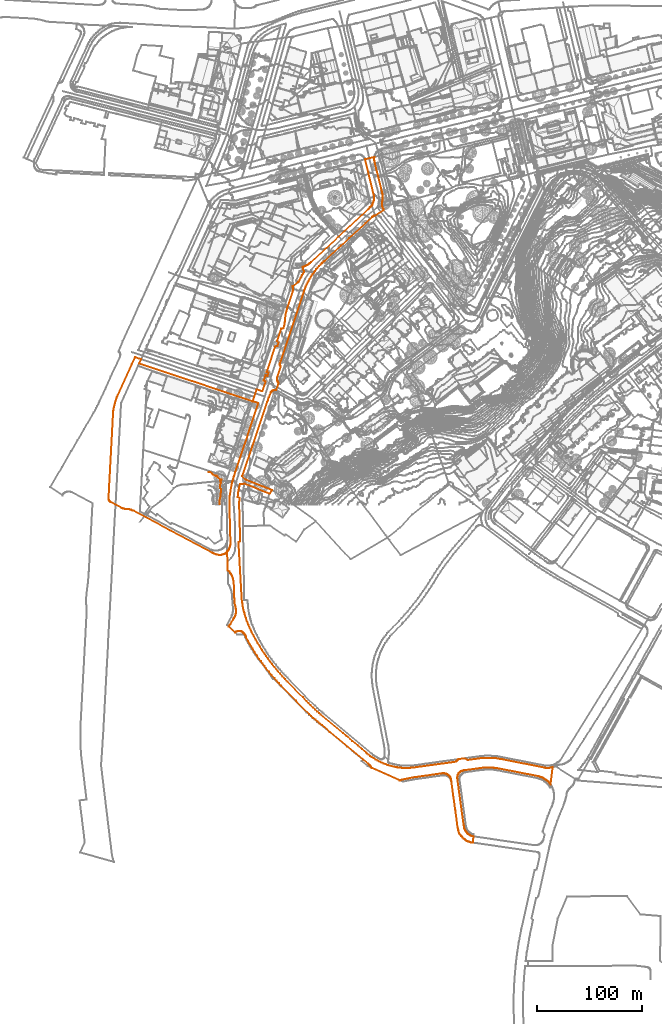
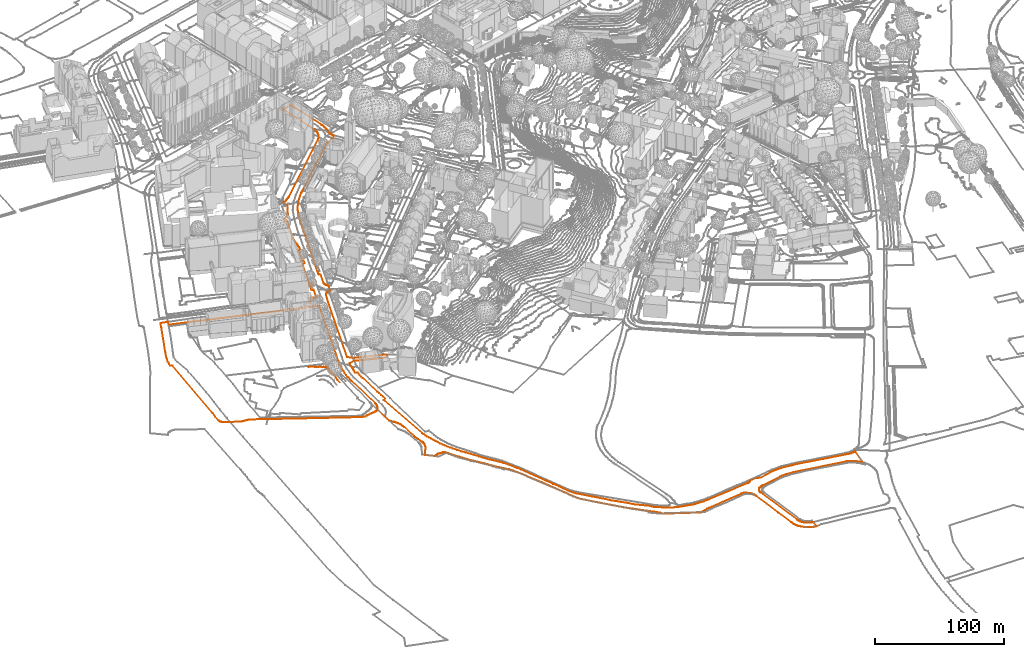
# Not in any storey, part 100 of 477: 2 civil elements, 1 geographic element.
"""IFC4 model written with IfcOpenShell, lengths in metres."""

from ifc_helpers import new_model, entity, si_unit, frame, origin_with_axes, place, context, subcontext, project, spatial, element, save


model = new_model("IFC4")

# Units and contexts
model_context = context("Model", 3, precision=1e-05, world=origin_with_axes())
body_context = subcontext(model_context, "Body", "Model", "MODEL_VIEW")
ifc_project = project(units=[si_unit("AREAUNIT", "SQUARE_METRE"), si_unit("LENGTHUNIT", "METRE")], contexts=[model_context])

# Sites
site_1_placement = place(None, origin_with_axes())
site_1 = spatial("IfcSite", under=ifc_project, at=site_1_placement, Name="Topoexport Site")
site_2_placement = place(site_1_placement, origin_with_axes())
site_2 = spatial("IfcSite", under=site_1, at=site_2_placement, Name="TPX_ROADS_OUTLINES")

# Civil elements
civil_element_1_placement = place(site_2_placement, frame((-95.8792679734, 3.9717160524, 525.6825592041), z_axis=(0.0, 0.0, 1.0), x_axis=(1.0, 0.0, 0.0)))
element("IfcCivilElement", 1, at=civil_element_1_placement, inside=site_2, Name="Roads Outline 29", ObjectType="ROAD", context=body_context, shape_type="GeometricCurveSet", body=[
    entity("IfcGeometricCurveSet", [entity("IfcIndexedPolyCurve", entity("IfcCartesianPointList3D", [[0.0, 0.0, 0.0], [0.2090000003, 6.5220000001, 0.1259674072], [0.4309999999, 10.8390000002, 0.8052130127], [4.1469999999, 79.716, 2.5408952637], [4.2660000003, 81.645, 1.1758549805], [4.4580000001, 83.568, 0.352380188], [4.7230000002, 85.4820000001, 0.3002050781], [5.0600000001, 87.385, 0.2311894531], [5.4700000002, 89.274, 0.3029388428], [5.9360000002, 91.084, 0.7047973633], [6.4670000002, 92.8759999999, 1.1196856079], [7.0649999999, 94.6459999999, 1.5115184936], [7.727, 96.3940000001, 1.8967419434], [8.4530000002, 98.1160000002, 2.2713045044], [21.8790000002, 127.578, 3.0430595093], [25.125, 134.679, 2.2582330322], [30.855, 132.774, 2.4664932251], [28.9709999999, 128.6310000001, 2.9211392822], [137.0559999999, 92.7320000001, 3.9211055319], [142.355, 90.9720000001, 3.7318244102], [141.6189999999, 88.7720000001, 3.6959359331], [121.25, 27.679, 2.6218205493], [120.4100000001, 25.325, 2.5217339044], [119.6260000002, 22.952, 2.4582699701], [118.8969999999, 20.561, 2.3808017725], [118.2239999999, 18.1529999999, 2.2891087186], [117.608, 15.7310000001, 2.2245042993], [117.0490000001, 13.2950000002, 2.1167274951], [116.5, 10.6000000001, 2.0274228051], [116.0210000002, 7.892, 1.9163168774], [115.6120000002, 5.172, 1.8078262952], [115.273, 2.443, 1.7109503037], [115.0049999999, -0.294, 1.6093416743], [115.0249999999, -1.713, 1.533269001], [115.0330000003, -3.132, 1.4580318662], [115.0240000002, -4.852, 1.4025044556], [114.9939999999, -6.5719999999, 1.404428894], [115.9610000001, -41.355, 1.4358656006], [115.923, -42.3529999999, 1.4343742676], [115.8170000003, -43.3459999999, 1.4302142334], [115.6430000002, -44.3289999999, 1.4233854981], [115.4020000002, -45.2989999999, 1.4139273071], [115.0950000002, -46.2490000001, 1.4018789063], [114.7239999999, -47.176, 1.4217488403], [114.4450000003, -47.8869999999, 1.4396461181], [114.1090000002, -48.5729999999, 1.4611998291], [113.7179999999, -49.23, 1.4776121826], [113.2760000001, -49.8529999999, 1.4946619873], [112.784, -50.4379999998, 1.5309696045], [112.199, -51.0249999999, 1.5906693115], [111.5649999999, -51.558, 1.7598414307], [110.8870000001, -52.0330000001, 1.9723870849], [110.1690000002, -52.446, 2.1955350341], [109.4169999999, -52.7949999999, 2.4012420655], [108.6380000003, -53.0759999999, 2.5063232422], [107.8370000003, -53.2879999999, 2.5205206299], [107.0210000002, -53.4269999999, 2.5245672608], [106.1950000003, -53.4949999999, 2.4721356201], [105.0300000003, -53.385, 2.3143251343], [103.875, -53.2049999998, 1.9795073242], [102.7320000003, -52.9539999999, 1.5134887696], [101.608, -52.6329999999, 1.1125405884], [100.5040000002, -52.2439999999, 0.7050781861], [99.4270000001, -51.7879999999, 0.413838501], [98.3799999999, -51.267, 0.2103104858], [59.1550000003, -30.368, 0.0179412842], [23.5959999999, -11.4139999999, 0.0179412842], [22.841, -11.0079999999, 0.0179412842], [22.0580000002, -10.6580000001, 0.0179412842], [21.2519999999, -10.3669999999, 0.0179412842], [20.426, -10.1359999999, 0.0179412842], [19.5860000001, -9.9669999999, 0.0179412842], [18.7349999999, -9.8589999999, 0.0179412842], [17.8790000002, -9.8149999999, 0.0179412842], [17.0830000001, -9.825, 0.0179412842], [16.2880000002, -9.7759999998, 0.0179412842], [15.4990000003, -9.6669999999, 0.0179412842], [14.7200000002, -9.4990000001, 0.0179412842], [13.9569999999, -9.273, 0.0179412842], [13.2120000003, -8.99, 0.0179412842], [12.4909999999, -8.652, 0.0179412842], [6.611, -5.534, 0.0179412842], [2.0060000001, -3.0919999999, 0.04662323], [1.5830000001, -2.855, 0.0368591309], [1.1970000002, -2.5619999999, 0.0247879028], [0.855, -2.2179999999, 0.0142781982], [0.5640000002, -1.831, 0.0154119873], [0.3289999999, -1.4069999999, 0.0166541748], [0.1540000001, -0.9549999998, 0.0107770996], [0.0440000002, -0.483, 0.0023361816], [0.0, 0.0, 0.0]]))]),
])
civil_element_2_placement = place(site_2_placement, frame((16.9047320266, -46.4662839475, 527.2135288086), z_axis=(0.0, 0.0, 1.0), x_axis=(1.0, 0.0, 0.0)))
element("IfcCivilElement", 2, at=civil_element_2_placement, inside=site_2, Name="Roads Outline 37", ObjectType="ROAD", context=body_context, shape_type="GeometricCurveSet", body=[
    entity("IfcGeometricCurveSet", [entity("IfcIndexedPolyCurve", entity("IfcCartesianPointList3D", [[0.0, 0.0, 0.0], [0.4920000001, 0.585, -0.0363076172], [0.9339999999, 1.2079999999, -0.0533574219], [1.3250000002, 1.865, -0.0697697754], [1.6610000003, 2.551, -0.0913234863], [1.9399999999, 3.2619999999, -0.1092207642], [2.3110000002, 4.1889999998, -0.1290906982], [2.6180000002, 5.139, -0.1170422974], [2.8590000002, 6.1089999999, -0.1075841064], [3.0330000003, 7.0919999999, -0.1007553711], [3.139, 8.085, -0.0965953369], [3.1770000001, 9.0829999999, -0.0951040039], [2.21, 43.8659999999, -0.1265407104], [2.2400000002, 45.5859999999, -0.1284651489], [2.2490000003, 47.3059999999, -0.0729377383], [2.2409999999, 48.7249999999, 0.0022993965], [2.2209999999, 50.1439999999, 0.0783720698], [2.4890000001, 52.8809999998, 0.1799806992], [2.8280000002, 55.6099999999, 0.2768566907], [3.2370000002, 58.3299999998, 0.3853472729], [3.716, 61.0379999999, 0.4964532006], [4.2650000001, 63.733, 0.5857578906], [4.824, 66.169, 0.6935346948], [5.4399999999, 68.5909999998, 0.7581391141], [6.1129999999, 70.9989999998, 0.849832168], [6.8420000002, 73.3899999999, 0.9273003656], [7.6260000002, 75.7629999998, 0.9907642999], [8.466, 78.1169999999, 1.0908509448], [28.835, 139.21, 2.1649663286], [29.571, 141.4099999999, 2.2008548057], [24.2719999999, 143.1699999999, 2.3901359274], [25.6890000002, 147.433, 2.4215292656], [28.0300000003, 154.477, 2.3927372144], [33.3530000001, 152.706, 2.4438187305], [36.5180000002, 162.1809999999, 2.6498570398], [34.7850000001, 162.7799999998, 2.6498814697], [36.5249999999, 168.007, 2.8102073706], [38.273, 167.4069999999, 2.7362770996], [39.3489999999, 170.3559999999, 2.8155852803], [37.6490000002, 171.2289999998, 2.7635325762], [45.8100000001, 195.4849999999, 3.4531757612], [47.7590000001, 195.7209999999, 3.4420223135], [48.8760000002, 199.0129999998, 3.5570848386], [47.4820000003, 200.4349999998, 3.4821393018], [51.4849999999, 212.3659999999, 3.8975067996], [53.477, 212.659, 3.9874900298], [54.0789999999, 214.713, 4.0521432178], [54.4180000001, 216.2209999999, 4.0875357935], [54.7050000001, 217.74, 4.1328164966], [54.9410000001, 219.267, 4.1851871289], [55.1310000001, 220.858, 4.2515688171], [55.264, 222.4549999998, 4.2883966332], [55.4300000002, 224.156, 4.3429505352], [55.6630000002, 225.8489999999, 4.4029189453], [55.9640000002, 227.531, 4.4628600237], [56.3459999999, 229.2609999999, 4.5051857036], [56.8000000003, 230.9739999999, 4.5690944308], [57.324, 232.6669999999, 4.7371709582], [62.344, 247.608, 5.6097928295], [62.5410000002, 248.3459999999, 5.6424190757], [62.6669999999, 249.0999999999, 5.6582427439], [62.7230000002, 249.862, 5.693642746], [62.7060000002, 250.6259999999, 5.7365152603], [62.6180000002, 251.385, 5.765941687], [62.4730000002, 252.0699999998, 5.769965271], [62.2690000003, 252.74, 5.76331303], [67.588, 256.4849999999, 6.166368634], [67.818, 256.6139999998, 6.1831970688], [68.0120000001, 256.7919999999, 6.2012509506], [68.1610000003, 257.0089999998, 6.2194770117], [68.9420000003, 258.7339999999, 6.3059574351], [69.7749999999, 260.4339999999, 6.3921290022], [70.6580000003, 262.1089999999, 6.4865210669], [71.4110000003, 263.4479999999, 6.5424905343], [72.1950000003, 264.7679999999, 6.6325996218], [73.0120000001, 266.068, 6.6996910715], [73.0989999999, 266.281, 6.7107645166], [73.1320000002, 266.5079999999, 6.7232725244], [73.1099999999, 266.7359999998, 6.7362372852], [73.0350000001, 266.953, 6.7503700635], [71.7970000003, 270.852, 6.8198967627], [72.9190000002, 271.2439999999, 6.8697641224], [74.0150000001, 271.7019999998, 6.8797335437], [75.0819999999, 272.2239999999, 6.9004628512], [76.1159999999, 272.8089999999, 6.9428690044], [77.1140000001, 273.4549999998, 6.9862838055], [78.071, 274.159, 7.0066928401], [78.9840000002, 274.919, 7.0331902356], [79.8510000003, 275.7319999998, 7.095719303], [134.5440000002, 326.3219999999, 10.0701041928], [135.6810000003, 327.4009999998, 10.1570261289], [136.2379999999, 327.9479999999, 10.1976430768], [136.7609999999, 328.527, 10.2428851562], [137.2490000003, 329.1379999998, 10.2818008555], [137.6980000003, 329.7759999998, 10.3077763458], [138.1699999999, 330.5489999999, 10.3543295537], [138.5860000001, 331.3529999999, 10.3972604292], [138.9450000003, 332.1849999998, 10.4597606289], [139.2450000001, 333.0399999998, 10.4924332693], [139.4849999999, 333.9129999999, 10.515973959], [139.659, 334.7849999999, 10.5567918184], [139.773, 335.6669999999, 10.6126278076], [139.8259999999, 336.5549999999, 10.6582545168], [139.818, 337.4439999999, 10.6884593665], [139.7490000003, 338.331, 10.7128418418], [139.6189999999, 339.21, 10.7421089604], [139.429, 340.0789999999, 10.7347743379], [131.2390000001, 373.524, 12.2542059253], [140.1520000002, 375.723, 12.5422128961], [140.037, 374.963, 12.5395443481], [139.9790000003, 374.196, 12.5273398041], [139.977, 373.4269999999, 12.4937084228], [140.0320000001, 372.6599999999, 12.4847212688], [140.1440000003, 371.899, 12.4871014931], [140.3110000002, 371.149, 12.452683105], [140.6830000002, 369.6329999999, 12.398720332], [147.2970000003, 342.6749999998, 11.192696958], [147.5389999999, 341.5469999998, 11.1247001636], [147.7260000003, 340.409, 11.1187284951], [147.8570000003, 339.2629999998, 11.0906309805], [147.932, 338.112, 11.0058054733], [147.9500000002, 336.8879999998, 10.9614676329], [147.9029999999, 335.6639999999, 10.9473659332], [147.7930000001, 334.4439999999, 10.906844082], [147.6189999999, 333.2319999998, 10.8399327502], [147.5530000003, 332.8829999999, 10.8423970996], [147.4990000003, 332.531, 10.8514512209], [147.4569999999, 332.1849999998, 10.8603287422], [147.426, 331.838, 10.8469992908], [147.3999999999, 331.1339999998, 10.8128685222], [147.4210000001, 330.4299999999, 10.7581859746], [147.4890000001, 329.7289999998, 10.7244940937], [147.6040000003, 329.034, 10.6952062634], [147.7889999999, 328.2619999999, 10.5807096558], [148.031, 327.5059999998, 10.5263208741], [148.3310000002, 326.7699999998, 10.4976947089], [148.6839999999, 326.0589999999, 10.4820318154], [149.091, 325.3769999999, 10.4792563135], [140.943, 320.061, 10.075383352], [140.3620000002, 319.936, 10.0530254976], [139.798, 319.75, 10.0329330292], [139.2570000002, 319.5049999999, 10.0080044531], [138.7450000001, 319.2049999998, 9.9715173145], [138.2680000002, 318.852, 9.9454167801], [137.8300000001, 318.45, 9.9406581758], [131.5320000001, 312.652, 9.6296100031], [116.1690000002, 298.5059999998, 8.7322271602], [108.429, 291.379, 8.2692342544], [92.5290000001, 276.7389999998, 7.443746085], [91.773, 276.0469999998, 7.4343657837], [91.02, 275.3499999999, 7.3811415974], [90.5279999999, 274.8999999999, 7.3639008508], [90.0470000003, 274.4369999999, 7.3345881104], [88.682, 273.0939999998, 7.2588066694], [87.358, 271.7119999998, 7.1936700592], [86.074, 270.291, 7.1023208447], [84.8330000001, 268.8339999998, 7.0216320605], [83.6440000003, 267.3499999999, 6.9373924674], [82.4980000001, 265.8329999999, 6.861977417], [81.395, 264.284, 6.7685030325], [80.3370000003, 262.7039999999, 6.6905249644], [79.3110000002, 261.0719999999, 6.5860730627], [78.3319999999, 259.4109999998, 6.4932963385], [77.4010000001, 257.723, 6.3809808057], [76.5190000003, 256.0089999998, 6.2853139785], [75.6499999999, 254.1849999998, 6.1771158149], [74.8360000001, 252.3359999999, 6.0549408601], [74.0800000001, 250.463, 5.9451830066], [73.3810000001, 248.5669999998, 5.8679813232], [72.7400000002, 246.6509999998, 5.7636781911], [71.7960000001, 243.8229999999, 5.5745427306], [50.986, 181.477, 3.2977000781], [50.2790000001, 179.358, 3.2287040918], [50.1669999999, 178.9819999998, 3.1982824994], [50.1150000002, 178.5929999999, 3.1809031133], [50.1230000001, 178.2009999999, 3.1650239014], [50.1910000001, 177.8149999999, 3.1430599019], [50.3250000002, 177.4269999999, 3.1194228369], [50.52, 177.0659999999, 3.1071771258], [50.7710000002, 176.74, 3.1141446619], [51.071, 176.46, 3.1251921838], [47.4960000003, 165.7729999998, 3.0790672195], [47.3760000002, 165.1889999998, 3.08814122], [47.3230000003, 164.5959999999, 3.0748394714], [47.338, 164.0, 3.0641486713], [47.4210000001, 163.4099999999, 3.0646839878], [47.571, 162.8329999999, 3.0730380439], [47.7850000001, 162.277, 3.0850431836], [48.017, 161.825, 3.094668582], [48.2919999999, 161.3969999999, 3.1061391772], [48.6070000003, 160.9979999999, 3.1198404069], [48.9590000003, 160.6309999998, 3.1398018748], [46.5789999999, 153.7489999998, 2.8328276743], [46.1140000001, 153.8589999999, 2.8312494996], [45.639, 153.916, 2.8224087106], [45.1610000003, 153.9199999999, 2.8123015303], [44.6850000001, 153.872, 2.7975457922], [44.2179999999, 153.7699999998, 2.7848241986], [43.665, 153.5759999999, 2.7706894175], [43.1430000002, 153.308, 2.7551187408], [42.6630000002, 152.9719999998, 2.7406853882], [42.233, 152.5739999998, 2.7303322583], [41.861, 152.1209999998, 2.7047519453], [41.5530000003, 151.6209999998, 2.6865820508], [41.3170000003, 151.085, 2.6893547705], [40.3799999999, 148.8199999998, 2.6460552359], [39.4939999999, 146.5349999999, 2.5817779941], [38.7150000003, 144.3949999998, 2.5524305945], [37.9780000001, 142.24, 2.5019457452], [14.4270000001, 72.075, 1.3037492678], [17.611, 68.6429999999, 1.2993010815], [42.6129999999, 58.612, 2.0847909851], [40.415, 55.1839999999, 1.9681826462], [16.602, 64.737, 1.3241599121], [12.1129999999, 64.382, 0.9723241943], [11.6770000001, 62.5289999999, 0.8874668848], [11.2850000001, 60.6669999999, 0.852175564], [10.8930000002, 58.548, 0.7222181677], [10.5560000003, 56.4209999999, 0.6298840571], [10.2740000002, 54.2849999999, 0.5385012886], [10.048, 52.142, 0.3546411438], [11.787, 51.122, 0.3774509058], [11.642, 49.2209999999, 0.2983477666], [11.5470000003, 47.3169999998, 0.1879187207], [11.5020000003, 45.173, 0.0994091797], [11.5219999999, 43.0279999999, 0.1005615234], [12.1129999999, 21.5459999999, 0.1346132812], [12.1910000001, 18.727, 0.1391074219], [12.287, 15.9079999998, 0.1441806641], [12.4040000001, 13.0449999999, 0.1470942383], [12.5389999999, 10.183, 0.1504560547], [10.7800000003, 9.031, 0.0587122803], [13.8820000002, -44.919, 0.3872963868], [14.1400000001, -47.1560000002, 0.4798891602], [14.4580000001, -49.385, 0.6537471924], [14.8360000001, -51.6040000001, 0.9114534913], [15.2740000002, -53.8130000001, 1.2093968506], [15.8030000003, -56.128, 1.2163063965], [16.3969999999, -58.4280000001, 1.2253969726], [17.0560000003, -60.7100000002, 1.2410836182], [17.7800000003, -62.9720000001, 1.269921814], [18.571, -65.2550000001, 1.2968514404], [19.4220000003, -67.517, 1.3089918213], [20.3340000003, -69.7540000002, 1.3260704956], [21.3060000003, -71.966, 1.3353218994], [22.3360000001, -74.152, 1.4501054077], [23.4250000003, -76.3090000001, 1.5137602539], [25.2690000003, -79.8300000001, 1.6272453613], [27.1830000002, -83.3150000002, 1.6478920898], [29.165, -86.76, 1.9293798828], [31.173, -90.094, 2.0448269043], [33.2460000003, -93.388, 2.1421895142], [35.3829999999, -96.6410000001, 2.0087410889], [37.1680000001, -99.2240000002, 1.8313295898], [39.0, -101.7740000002, 1.6536177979], [40.878, -104.2910000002, 1.6631731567], [42.8020000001, -106.773, 1.6834897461], [45.3110000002, -109.9060000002, 1.6095277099], [47.8799999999, -112.99, 1.5021586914], [50.5100000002, -116.0220000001, 0.6183668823], [52.827, -118.6000000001, -0.1036555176], [55.1860000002, -121.1400000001, -0.9687147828], [57.588, -123.6390000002, -1.8148166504], [72.1350000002, -138.4410000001, -8.9861828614], [75.6639999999, -142.044, -10.5091979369], [77.4820000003, -143.915, -11.3258317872], [79.3119999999, -145.7760000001, -12.223350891], [81.557, -148.0310000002, -13.4279377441], [83.8170000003, -150.2710000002, -14.6350356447], [85.5500000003, -151.8890000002, -15.4212239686], [87.3130000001, -153.4750000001, -16.1185202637], [89.1040000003, -155.0290000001, -16.4496092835], [110.3810000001, -172.689, -19.8612575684], [113.5350000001, -175.3360000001, -20.093907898], [118.9790000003, -179.9200000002, -20.6796400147], [124.4160000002, -184.5110000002, -21.332439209], [128.227, -187.7110000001, -21.3993698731], [132.0350000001, -190.9140000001, -21.2443082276], [133.3500000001, -192.0350000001, -21.3824996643], [134.6950000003, -193.1200000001, -21.691779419], [136.0700000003, -194.1670000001, -21.8612960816], [137.4730000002, -195.1760000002, -21.8728122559], [139.2919999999, -196.4000000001, -21.9080383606], [141.1529999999, -197.5590000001, -22.0523435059], [143.054, -198.652, -22.1940322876], [144.9920000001, -199.6780000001, -22.2688918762], [146.9640000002, -200.635, -22.3262070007], [148.969, -201.5220000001, -22.4043725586], [150.841, -202.2410000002, -22.392453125], [152.7370000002, -202.892, -22.3883603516], [154.656, -203.473, -22.400094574], [156.5950000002, -203.9840000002, -22.4024851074], [158.551, -204.425, -22.4127088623], [160.4539999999, -204.8220000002, -22.4204769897], [162.3700000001, -205.1500000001, -22.488545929], [164.2970000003, -205.4070000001, -22.9088349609], [166.2310000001, -205.594, -22.6714108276], [168.1720000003, -205.7100000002, -22.6782406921], [170.1150000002, -205.7560000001, -22.6751373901], [171.8050000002, -205.7380000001, -22.7538804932], [173.4939999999, -205.6680000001, -22.8762762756], [175.1800000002, -205.5430000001, -22.934270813], [176.861, -205.3660000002, -22.8983277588], [178.5360000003, -205.135, -22.9434968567], [211.182, -200.6540000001, -23.7664246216], [215.5049999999, -200.0410000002, -23.8870307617], [218.0210000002, -199.6840000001, -24.1705284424], [218.514, -199.2980000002, -24.1966000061], [218.9670000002, -198.8660000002, -24.1965585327], [219.375, -198.3910000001, -24.1955966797], [219.7340000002, -197.878, -24.1923099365], [220.0410000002, -197.3320000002, -24.1894992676], [225.6869999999, -196.55, -24.4279454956], [228.9939999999, -198.1270000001, -24.3846652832], [238.128, -196.8320000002, -23.4516400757], [239.915, -196.5750000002, -23.3640769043], [241.71, -196.3700000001, -23.3568114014], [243.5090000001, -196.2180000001, -23.3303251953], [245.4500000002, -196.1130000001, -23.307952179], [247.3930000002, -196.0680000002, -23.3228806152], [249.3370000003, -196.0850000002, -23.3080678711], [251.4849999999, -196.1600000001, -23.4265611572], [253.6290000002, -196.3010000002, -23.4575334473], [255.7680000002, -196.51, -23.5253609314], [257.7650000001, -196.7680000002, -23.5436719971], [259.7540000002, -197.0850000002, -23.4839035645], [261.7320000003, -197.4600000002, -23.2895286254], [302.1030000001, -205.419, -23.3685843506], [303.2009999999, -205.5960000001, -23.3904177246], [304.3089999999, -205.6970000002, -23.4169968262], [305.4210000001, -205.7200000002, -23.420748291], [306.5320000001, -205.6660000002, -23.3759815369], [307.6370000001, -205.5340000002, -23.3732524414], [308.699, -205.3330000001, -23.429723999], [309.7460000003, -205.0610000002, -23.4286680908], [307.7179999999, -221.368, -23.3782358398], [307.0810000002, -220.496, -23.3573676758], [306.395, -219.662, -23.3806265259], [305.662, -218.868, -23.4105693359], [304.8859999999, -218.1170000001, -23.4229837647], [304.068, -217.412, -23.4113556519], [303.2120000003, -216.7540000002, -23.3904956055], [302.2990000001, -216.1330000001, -23.3840314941], [301.3510000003, -215.5650000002, -23.301067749], [300.3710000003, -215.054, -23.2401946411], [299.3640000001, -214.601, -23.2059910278], [298.3319999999, -214.2070000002, -23.1607377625], [297.2790000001, -213.8730000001, -23.1738826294], [296.2080000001, -213.6020000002, -23.2017532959], [258.4780000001, -206.2070000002, -23.5321309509], [256.3710000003, -205.8640000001, -23.5478035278], [254.2520000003, -205.6000000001, -23.4674959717], [252.125, -205.415, -23.4448619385], [249.9930000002, -205.3100000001, -23.3386777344], [248.0190000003, -205.2820000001, -23.2856660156], [246.0440000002, -205.3230000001, -23.3142061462], [244.0730000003, -205.432, -23.3405490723], [242.1060000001, -205.6090000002, -23.3608236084], [225.5649999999, -207.9440000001, -24.431560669], [224.821, -208.0530000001, -24.4248469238], [224.0920000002, -208.2390000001, -24.404775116], [223.3870000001, -208.5, -24.399159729], [222.713, -208.8330000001, -24.3697800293], [222.077, -209.2340000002, -24.3307032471], [221.486, -209.699, -24.28032901], [220.9470000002, -210.2240000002, -24.2377894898], [220.4650000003, -210.8010000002, -24.2017365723], [220.0619999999, -211.3990000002, -24.1893070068], [219.7200000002, -212.0340000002, -24.1924381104], [219.443, -212.7000000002, -24.1949741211], [219.2340000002, -213.3910000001, -24.1965340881], [219.0950000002, -214.098, -24.196546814], [219.0270000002, -214.8160000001, -24.1965530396], [219.0320000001, -215.5380000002, -24.1965525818], [219.108, -216.2550000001, -24.1965456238], [225.2400000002, -261.192, -24.4390914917], [225.412, -262.067, -24.4360944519], [225.6320000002, -262.9310000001, -24.4295752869], [225.9300000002, -263.885, -24.4207447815], [226.2850000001, -264.8190000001, -24.4109682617], [226.693, -265.5320000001, -24.4241416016], [227.1510000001, -266.2150000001, -24.4389293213], [227.6540000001, -266.865, -24.4391360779], [228.2009999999, -267.4780000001, -24.4337775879], [228.79, -268.0520000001, -24.3983615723], [229.4169999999, -268.5830000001, -24.3670805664], [230.1690000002, -269.1290000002, -24.3730703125], [230.9610000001, -269.6130000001, -24.3724919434], [231.79, -270.0340000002, -24.3653851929], [232.6490000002, -270.388, -24.3305864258], [233.5330000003, -270.6730000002, -24.2401926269], [234.4369999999, -270.8870000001, -24.1163739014], [233.8280000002, -276.814, -24.1917761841], [233.0130000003, -276.6870000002, -24.3027487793], [232.2050000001, -276.5210000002, -24.360192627], [231.406, -276.314, -24.3701898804], [230.3880000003, -275.9880000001, -24.3736635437], [229.392, -275.598, -24.3668814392], [228.4240000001, -275.1460000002, -24.4229343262], [227.486, -274.6320000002, -24.4407818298], [226.5830000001, -274.0600000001, -24.4205899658], [225.7179999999, -273.4310000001, -24.427026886], [224.8960000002, -272.7480000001, -24.4273966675], [224.1180000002, -272.0140000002, -24.4049822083], [223.3420000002, -271.1830000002, -24.3988013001], [222.6240000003, -270.3020000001, -24.3652550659], [221.9670000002, -269.3740000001, -24.3213273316], [221.3999999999, -268.4430000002, -24.2729987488], [220.8940000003, -267.4780000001, -24.2338251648], [220.452, -266.4820000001, -24.2007641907], [220.0759999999, -265.459, -24.189178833], [219.767, -264.4130000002, -24.1920078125], [219.5270000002, -263.3500000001, -24.1942050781], [219.3560000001, -262.2740000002, -24.1957706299], [217.1440000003, -246.1030000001, -24.0833245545], [215.1839999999, -231.773, -23.8434457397], [213.3960000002, -218.726, -23.7471591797], [213.2760000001, -217.503, -23.7398349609], [213.1770000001, -216.8500000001, -23.7450600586], [213.023, -216.2080000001, -23.7537357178], [212.8140000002, -215.581, -23.7655098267], [212.551, -214.9750000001, -23.7803260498], [212.2480000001, -214.4140000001, -23.7955127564], [211.8999999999, -213.8800000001, -23.7889070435], [211.5090000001, -213.3770000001, -23.7814851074], [211.077, -212.9080000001, -23.7542160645], [210.443, -212.4000000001, -23.6804996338], [209.7690000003, -211.9470000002, -23.6314790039], [209.2540000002, -211.6510000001, -23.5981778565], [208.7209999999, -211.3870000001, -23.4716293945], [208.1740000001, -211.1560000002, -23.3528902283], [207.5730000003, -210.973, -23.2777835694], [206.9580000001, -210.841, -23.2218260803], [206.335, -210.76, -23.1853031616], [205.6150000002, -210.7320000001, -23.2183757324], [204.8960000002, -210.773, -23.2082085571], [204.1839999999, -210.8820000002, -23.1532652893], [180.6380000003, -214.1770000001, -23.0243172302], [178.2420000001, -214.53, -22.9272961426], [175.8530000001, -214.9310000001, -22.9127011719], [173.4730000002, -215.3810000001, -22.8752963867], [171.102, -215.8790000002, -22.7040344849], [168.8370000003, -216.4030000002, -22.6958054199], [166.5830000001, -216.9720000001, -22.6799243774], [164.3400000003, -217.584, -22.8987082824], [164.3200000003, -217.5750000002, -22.9034183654], [137.4300000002, -205.5800000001, -21.873341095], [137.0219999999, -204.8420000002, -21.8749579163], [136.5580000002, -204.1370000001, -21.8743773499], [136.0410000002, -203.4710000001, -21.8594782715], [135.4739999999, -202.8460000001, -21.8239369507], [134.8620000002, -202.2660000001, -21.7263230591], [134.2060000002, -201.7350000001, -21.5883753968], [129.3859999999, -197.733, -21.3848777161], [114.2650000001, -185.1780000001, -20.1830415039], [97.6780000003, -171.3370000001, -17.7857491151], [90.1839999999, -165.084, -16.6540446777], [88.0959999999, -163.3530000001, -16.3919776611], [86.0190000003, -161.6100000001, -15.5760162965], [83.9509999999, -159.8820000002, -14.7118909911], [81.9240000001, -158.1050000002, -13.6348904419], [80.0360000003, -156.3690000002, -12.6243701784], [78.1869999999, -154.591, -11.657505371], [65.3910000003, -141.591, -5.679371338], [51.503, -127.5140000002, 0.3435500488], [49.2749999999, -125.118, 1.0624982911], [47.0759999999, -122.6950000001, 1.5385355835], [44.9070000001, -120.246, 1.6257774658], [42.2960000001, -117.2200000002, 1.6869487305], [39.7310000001, -114.155, 1.6413670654], [37.2110000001, -111.0520000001, 1.826206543], [35.46, -108.7980000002, 2.0026173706], [33.7460000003, -106.5160000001, 2.1159968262], [32.0700000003, -104.206, 2.1094129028], [30.4330000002, -101.8690000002, 2.0136171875], [28.2520000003, -98.5930000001, 1.7716437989], [26.1310000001, -95.2780000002, 1.6558408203], [24.071, -91.925, 1.5798822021], [22.054, -88.4970000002, 1.4216085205], [20.1010000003, -85.0320000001, 1.3223364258], [18.213, -81.5310000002, 1.2901394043], [17.8089999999, -80.6980000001, 1.2712758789], [17.3900000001, -79.8720000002, 1.2517119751], [17.0090000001, -79.1490000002, 1.2399648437], [16.6150000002, -78.432, 1.2305861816], [16.247, -77.878, 1.2221057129], [15.824, -77.365, 1.2165806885], [15.3489999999, -76.8990000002, 1.2103764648], [14.8280000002, -76.4850000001, 0.9059993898], [14.2660000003, -76.1290000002, 0.5251088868], [13.7830000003, -75.8590000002, 0.3517666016], [13.2749999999, -75.6410000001, 0.1694521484], [12.7480000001, -75.4750000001, 0.1556606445], [12.2060000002, -75.3640000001, 0.1399716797], [11.656, -75.3100000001, 0.1082822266], [11.1030000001, -75.3120000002, 0.0767312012], [10.4539999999, -75.4210000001, 0.040526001], [9.8190000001, -75.594, 0.0473317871], [9.2030000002, -75.8280000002, 0.0676986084], [8.6140000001, -76.121, 0.0680221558], [8.057, -76.4710000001, 0.0634106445], [7.5360000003, -76.8740000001, 0.0518356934], [1.5180000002, -71.273, -0.0821503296], [2.27, -69.9580000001, -0.1303895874], [3.0430000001, -68.6560000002, -0.100362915], [4.3680000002, -66.537, -0.0425305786], [5.7540000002, -64.456, -0.012276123], [6.2209999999, -63.746, -0.0007607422], [6.6520000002, -63.013, 0.0177550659], [7.0470000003, -62.2610000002, 0.0357161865], [7.4620000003, -61.3550000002, 0.0501916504], [7.8259999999, -60.4280000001, 0.0582785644], [8.1710000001, -59.1580000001, 0.0659433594], [8.3459999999, -58.4310000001, 0.0681693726], [8.4780000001, -57.6950000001, 0.0680968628], [8.5600000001, -56.952, 0.0680518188], [8.591, -56.2050000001, 0.06803479], [8.5550000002, -55.6980000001, 0.0680545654], [8.446, -55.2010000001, 0.0681144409], [8.3100000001, -54.7120000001, 0.0681891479], [8.1910000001, -54.219, 0.0663876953], [7.807, -52.3520000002, 0.0578564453], [7.483, -50.473, 0.0506582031], [7.219, -48.5850000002, 0.0435372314], [7.0100000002, -46.6610000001, 0.0340337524], [6.8629999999, -44.7310000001, 0.0273494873], [6.7779999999, -42.7980000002, 0.023484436], [6.3230000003, -30.3120000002, 0.002795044], [6.233, -29.084, -0.0004648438], [6.0670000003, -27.8630000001, -0.0045581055], [5.8250000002, -26.655, -0.0105253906], [5.5079999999, -25.4650000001, -0.018342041], [5.1170000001, -24.297, -0.0273073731], [4.6550000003, -23.155, -0.0366973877], [4.1210000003, -22.0450000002, -0.0515864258], [3.52, -20.9700000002, -0.0797583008], [3.2290000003, -20.5010000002, -0.0930632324], [2.9250000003, -20.04, -0.1049938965], [2.21, -19.0550000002, -0.1265407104], [1.4350000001, -18.1160000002, -0.0768260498], [0.6040000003, -17.2270000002, -0.0406279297], [0.0, 0.0, 0.0]]))]),
])

# Site
site_3_placement = place(site_1_placement, origin_with_axes())
site_3 = spatial("IfcSite", under=site_1, at=site_3_placement, Name="TPX_CONTOUR_LINES")

# Geographic element
geographic_element_placement = place(site_3_placement, frame((-0.8222679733, 29.5440608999, 528.0), z_axis=(0.0, 0.0, 1.0), x_axis=(1.0, 0.0, 0.0)))
element("IfcGeographicElement", 3, at=geographic_element_placement, inside=site_3, Name="Contour Line 528.0 m", PredefinedType="NOTDEFINED", context=body_context, shape_type="GeometricCurveSet", body=[
    entity("IfcGeometricCurveSet", [entity("IfcIndexedPolyCurve", entity("IfcCartesianPointList3D", [[10.4849800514, -30.8733448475, 0.0], [10.5, -26.9536851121, 0.0], [11.2410810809, -23.3733448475, 0.0], [11.3264101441, -20.3733448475, 0.0], [12.0320776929, -19.3733448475, 0.0], [11.7942222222, -16.3733448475, 0.0], [10.9920466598, -15.3733448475, 0.0], [10.9619047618, -12.3733448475, 0.0], [11.7676363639, -10.3733448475, 0.0], [11.107505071, -8.3733448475, 0.0], [12.5681028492, -7.3733448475, 0.0], [11.5, -7.1633209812, 0.0], [8.6244147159, -5.3733448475, 0.0], [8.4353214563, -4.3733448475, 0.0], [7.5, -3.7023251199, 0.0], [6.5, -3.9597760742, 0.0], [4.5, -2.5115959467, 0.0], [3.4586899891, -1.3733448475, 0.0], [1.5, -0.3017078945, 0.0], [0.0, 0.0, 0.0]]))]),
])

save(model, "model.ifc")
